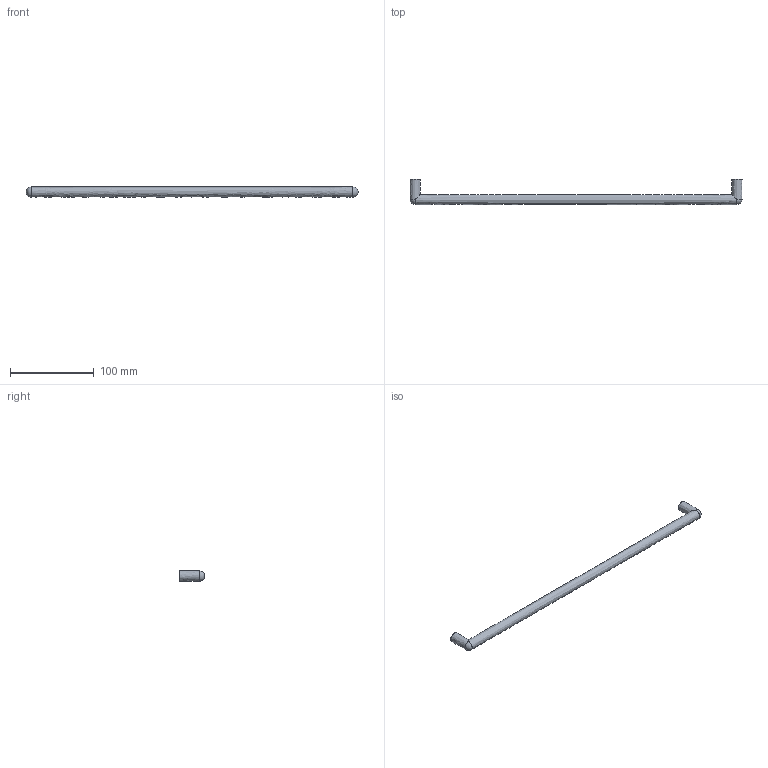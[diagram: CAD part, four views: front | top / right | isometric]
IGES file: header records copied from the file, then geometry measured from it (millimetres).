
Start section: Data from Parasolid IGES Translator 15.0.47, Copyright(c) 2006 Siemens P LM Software. All Rights Reserved.
Global section: file name:  9070979.igs; native system:  By UGS Corp.; preprocessor: XPlus GENERIC/IGES 3.0; author: Noname; organization: Noname; date: 20140122.181544; units: millimetre
Bounding box: 396 x 30 x 12 mm (x, y, z)
Surface area: 16764.6 mm2 (no closed solid volume)
Topology: 0 solids, 0 shells, 11 faces, 38 edges, 30 vertices
Faces by surface type: revolution 7, extrusion 4
